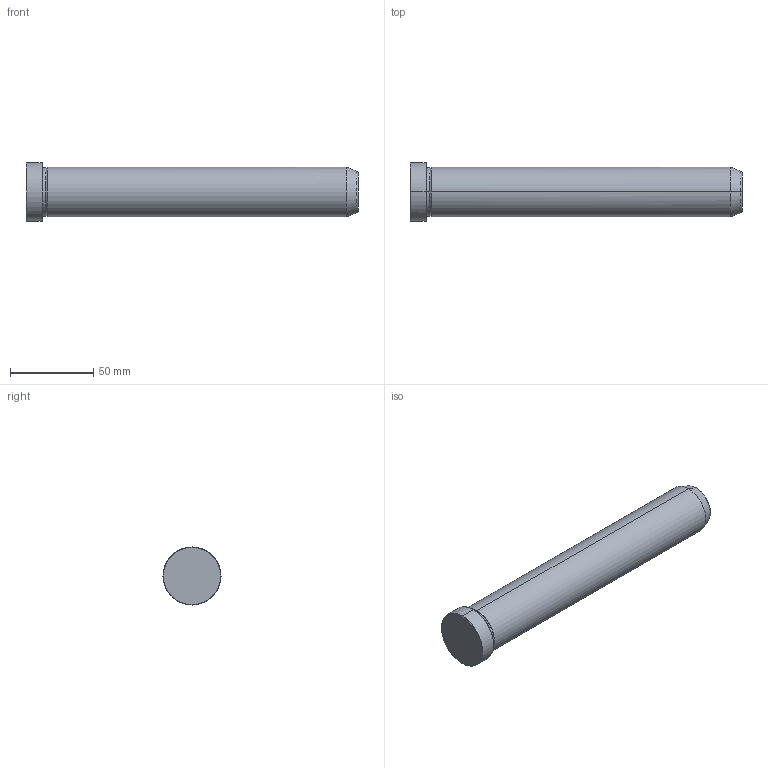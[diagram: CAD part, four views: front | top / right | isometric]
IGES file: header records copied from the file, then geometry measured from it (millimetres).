
Start section: START RECORD GO HERE.
Global section: file name: 549-30X200.igs; native system: DASSAULT SYSTEMES CATIA V5 R20 - www.3ds.com; preprocessor: CATIA Version 5 Release 20 ; author: Utente; organization: NB04-ASUS; date: 20211217.153758; units: millimetre
Bounding box: 200 x 35 x 35 mm (x, y, z)
Surface area: 20673.8 mm2 (no closed solid volume)
Topology: 0 solids, 0 shells, 19 faces, 112 edges, 112 vertices
Faces by surface type: revolution 16, plane 3
